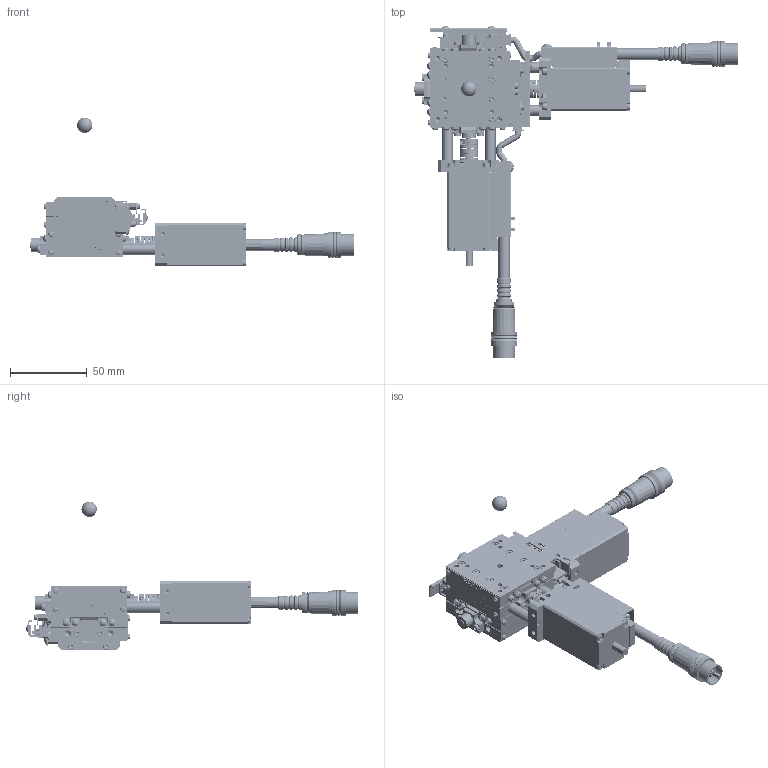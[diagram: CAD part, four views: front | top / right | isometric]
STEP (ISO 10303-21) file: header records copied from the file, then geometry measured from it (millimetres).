
FILE_DESCRIPTION (( 'STEP AP203' ), '1' );
FILE_NAME ('SA05B-RS02.STEP', '2019-02-26T08:37:19', ( '' ), ( '' ), 'SwSTEP 2.0', 'SolidWorks 2018', '' );
FILE_SCHEMA (( 'CONFIG_CONTROL_DESIGN' ));
Length unit declared in the file: millimetre
Products named in the file (12): rotation center; second table; base-Part-2; second table-Part-4; second table-Part-1; base-Part-3; second table-Part-2; table; SA05B-RS02; base-Part-1; base; second table-Part-3
Assembly tree (10 placements, depth 3):
  second table-Part-1
  SA05B-RS02
    second table
      second table-Part-2
      second table-Part-3
      second table-Part-4
    base
      base-Part-1
      base-Part-2
      base-Part-3
    table
    rotation center
Bounding box: 211 x 216.68 x 97 mm (x, y, z)
Volume: 216825.6 mm3; surface area: 95809.7 mm2
Topology: 8 solids, 8 shells, 5459 faces, 13739 edges, 8509 vertices
Faces by surface type: plane 3393, cylinder 1248, cone 452, torus 256, sphere 98, bspline 12
Entity records: 167600 total; most frequent: CARTESIAN_POINT 33219, DIRECTION 28816, ORIENTED_EDGE 27084, EDGE_CURVE 13542, AXIS2_PLACEMENT_3D 10135, LINE 8546, VECTOR 8546, VERTEX_POINT 8498
